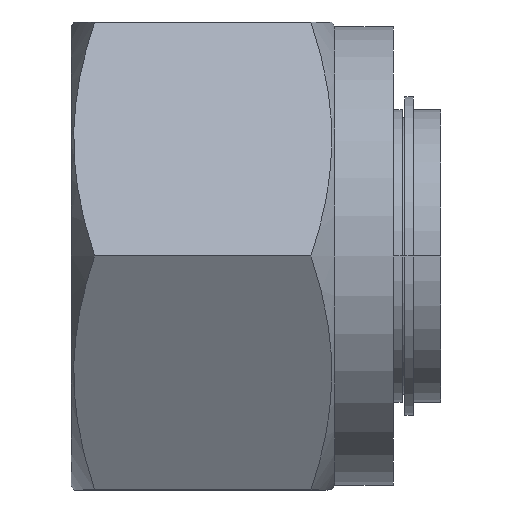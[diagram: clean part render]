
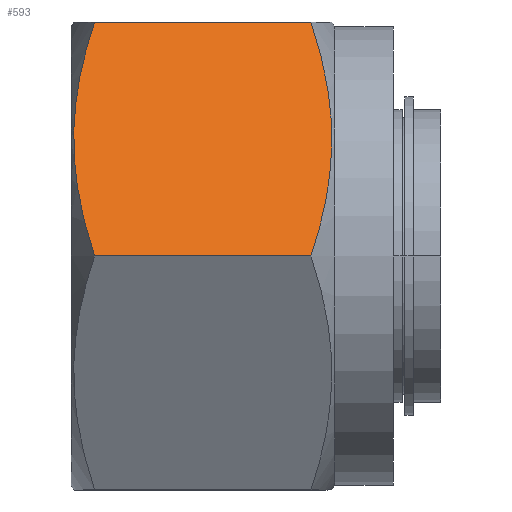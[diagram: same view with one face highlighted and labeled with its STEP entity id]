
A CAD part, front view. The second image highlights one B-rep face of the part: STEP entity #593.
In plain terms, the highlighted planar face has unit normal (0, -0.866, 0.5).
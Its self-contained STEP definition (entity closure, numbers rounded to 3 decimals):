
#202 = EDGE_CURVE ( 'NONE', #3036, #203, #1064, .T. ) ;
#203 = VERTEX_POINT ( 'NONE', #1063 ) ;
#340 = EDGE_CURVE ( 'NONE', #3015, #2992, #1782, .T. ) ;
#462 = ORIENTED_EDGE ( 'NONE', *, *, #463, .F. ) ;
#463 = EDGE_CURVE ( 'NONE', #203, #3015, #2340, .T. ) ;
#464 = ORIENTED_EDGE ( 'NONE', *, *, #202, .F. ) ;
#465 = ORIENTED_EDGE ( 'NONE', *, *, #588, .T. ) ;
#588 = EDGE_CURVE ( 'NONE', #3036, #2992, #2529, .T. ) ;
#591 = ORIENTED_EDGE ( 'NONE', *, *, #340, .F. ) ;
#593 = ADVANCED_FACE ( 'NONE', ( #2579 ), #2576, .F. ) ;
#594 = EDGE_LOOP ( 'NONE', ( #591, #462, #464, #465 ) ) ;
#1050 = CARTESIAN_POINT ( 'NONE',  ( 13.021, -14.665, 0. ) ) ;
#1051 = CARTESIAN_POINT ( 'NONE',  ( 13.367, -14.065, 1.038 ) ) ;
#1052 = CARTESIAN_POINT ( 'NONE',  ( 13.653, -13.461, 2.085 ) ) ;
#1053 = CARTESIAN_POINT ( 'NONE',  ( 13.949, -12.543, 3.674 ) ) ;
#1054 = CARTESIAN_POINT ( 'NONE',  ( 14.026, -12.236, 4.207 ) ) ;
#1055 = CARTESIAN_POINT ( 'NONE',  ( 14.13, -11.616, 5.28 ) ) ;
#1056 = CARTESIAN_POINT ( 'NONE',  ( 14.156, -11.303, 5.822 ) ) ;
#1057 = CARTESIAN_POINT ( 'NONE',  ( 14.155, -10.368, 7.442 ) ) ;
#1058 = CARTESIAN_POINT ( 'NONE',  ( 14.046, -9.752, 8.508 ) ) ;
#1059 = CARTESIAN_POINT ( 'NONE',  ( 13.652, -8.534, 10.619 ) ) ;
#1060 = CARTESIAN_POINT ( 'NONE',  ( 13.367, -7.931, 11.663 ) ) ;
#1061 = CARTESIAN_POINT ( 'NONE',  ( 13.021, -7.332, 12.7 ) ) ;
#1063 = CARTESIAN_POINT ( 'NONE',  ( 13.021, -14.665, 0. ) ) ;
#1064 = B_SPLINE_CURVE_WITH_KNOTS ( 'NONE', 3,
 ( #1061, #1060, #1059, #1058, #1057, #1056, #1055, #1054, #1053, #1052, #1051, #1050 ),
 .UNSPECIFIED., .F., .F.,
 ( 4, 2, 2, 2, 2, 4 ),
 ( 0., 0.004, 0.007, 0.009, 0.011, 0.015 ),
 .UNSPECIFIED. ) ;
#1782 = B_SPLINE_CURVE_WITH_KNOTS ( 'NONE', 3,
 ( #1821, #1820, #1819, #1818, #1817, #1816, #1815, #1814, #1813, #1812, #1811, #1810 ),
 .UNSPECIFIED., .F., .F.,
 ( 4, 2, 2, 2, 2, 4 ),
 ( 0., 0.004, 0.007, 0.009, 0.011, 0.015 ),
 .UNSPECIFIED. ) ;
#1810 = CARTESIAN_POINT ( 'NONE',  ( 1.279, -7.332, 12.7 ) ) ;
#1811 = CARTESIAN_POINT ( 'NONE',  ( 0.933, -7.932, 11.662 ) ) ;
#1812 = CARTESIAN_POINT ( 'NONE',  ( 0.647, -8.536, 10.615 ) ) ;
#1813 = CARTESIAN_POINT ( 'NONE',  ( 0.351, -9.454, 9.026 ) ) ;
#1814 = CARTESIAN_POINT ( 'NONE',  ( 0.274, -9.761, 8.493 ) ) ;
#1815 = CARTESIAN_POINT ( 'NONE',  ( 0.17, -10.381, 7.42 ) ) ;
#1816 = CARTESIAN_POINT ( 'NONE',  ( 0.144, -10.694, 6.878 ) ) ;
#1817 = CARTESIAN_POINT ( 'NONE',  ( 0.145, -11.629, 5.258 ) ) ;
#1818 = CARTESIAN_POINT ( 'NONE',  ( 0.254, -12.245, 4.192 ) ) ;
#1819 = CARTESIAN_POINT ( 'NONE',  ( 0.648, -13.463, 2.081 ) ) ;
#1820 = CARTESIAN_POINT ( 'NONE',  ( 0.933, -14.066, 1.037 ) ) ;
#1821 = CARTESIAN_POINT ( 'NONE',  ( 1.279, -14.665, 0. ) ) ;
#2337 = DIRECTION ( 'NONE',  ( -1., 0., 0. ) ) ;
#2338 = VECTOR ( 'NONE', #2337, 1000. ) ;
#2339 = CARTESIAN_POINT ( 'NONE',  ( 17.5, -14.665, 0. ) ) ;
#2340 = LINE ( 'NONE', #2339, #2338 ) ;
#2518 = VECTOR ( 'NONE', #2527, 1000. ) ;
#2527 = DIRECTION ( 'NONE',  ( -1., 0., 0. ) ) ;
#2528 = CARTESIAN_POINT ( 'NONE',  ( 17.5, -7.332, 12.7 ) ) ;
#2529 = LINE ( 'NONE', #2528, #2518 ) ;
#2564 = DIRECTION ( 'NONE',  ( 0., 0.5, 0.866 ) ) ;
#2574 = DIRECTION ( 'NONE',  ( 0., 0.866, -0.5 ) ) ;
#2575 = CARTESIAN_POINT ( 'NONE',  ( 17.5, -7.332, 12.7 ) ) ;
#2576 = PLANE ( 'NONE',  #2578 ) ;
#2578 = AXIS2_PLACEMENT_3D ( 'NONE', #2575, #2574, #2564 ) ;
#2579 = FACE_OUTER_BOUND ( 'NONE', #594, .T. ) ;
#2717 = CARTESIAN_POINT ( 'NONE',  ( 1.279, -7.332, 12.7 ) ) ;
#2769 = CARTESIAN_POINT ( 'NONE',  ( 1.279, -14.665, 0. ) ) ;
#2837 = CARTESIAN_POINT ( 'NONE',  ( 13.021, -7.332, 12.7 ) ) ;
#2992 = VERTEX_POINT ( 'NONE', #2717 ) ;
#3015 = VERTEX_POINT ( 'NONE', #2769 ) ;
#3036 = VERTEX_POINT ( 'NONE', #2837 ) ;
